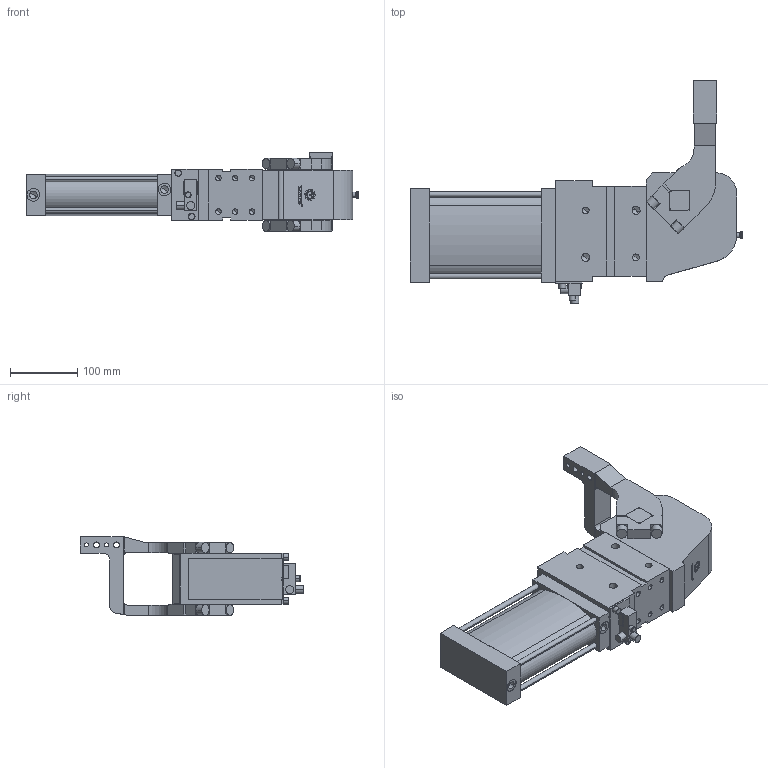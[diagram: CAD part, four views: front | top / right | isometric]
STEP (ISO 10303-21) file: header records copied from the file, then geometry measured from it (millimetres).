
FILE_DESCRIPTION (( 'STEP AP214' ), '1' );
FILE_NAME ('AKUHV80-L01W12.STEP', '2026-07-07T17:43:06', ( '' ), ( '' ), 'SwSTEP 2.0', 'SolidWorks 2019', '' );
FILE_SCHEMA (( 'AUTOMOTIVE_DESIGN' ));
Length unit declared in the file: millimetre
Products named in the file (3): AKUHV80-L01W12; 80-L01; AKUHV80-Z00W12
Assembly tree (2 placements, depth 2):
  AKUHV80-L01W12
    AKUHV80-Z00W12
    80-L01
Bounding box: 495 x 333 x 117.5 mm (x, y, z)
Volume: 3955689.7 mm3; surface area: 381507.6 mm2
Topology: 2 solids, 3 shells, 527 faces, 1369 edges, 854 vertices
Faces by surface type: plane 281, cylinder 173, cone 56, torus 12, bspline 5
Entity records: 16172 total; most frequent: CARTESIAN_POINT 3137, DIRECTION 2731, ORIENTED_EDGE 2650, EDGE_CURVE 1325, AXIS2_PLACEMENT_3D 917, VECTOR 897, LINE 897, VERTEX_POINT 854
